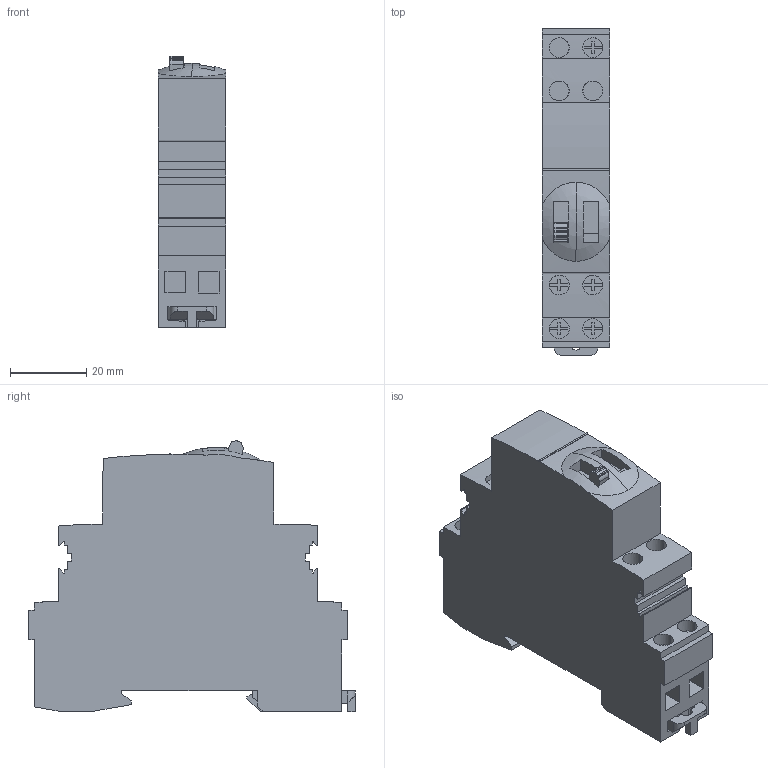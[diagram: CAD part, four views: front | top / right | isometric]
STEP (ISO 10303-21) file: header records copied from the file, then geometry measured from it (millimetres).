
FILE_DESCRIPTION((''),'2;1');
FILE_NAME('SB100538_S_SW0001','2010-09-17T',('gfernandez-a'),(''),'PRO/ENGINEER BY PARAMETRIC TECHNOLOGY CORPORATION, 2006170','PRO/ENGINEER BY PARAMETRIC TECHNOLOGY CORPORATION, 2006170','');
FILE_SCHEMA(('CONFIG_CONTROL_DESIGN'));
Length unit declared in the file: millimetre
Products named in the file (1): SB100538_S_SW0001
Bounding box: 17.8 x 85.81 x 71.34 mm (x, y, z)
Volume: 74522.4 mm3; surface area: 17305.5 mm2
Topology: 1 solids, 1 shells, 289 faces, 836 edges, 557 vertices
Faces by surface type: plane 242, cylinder 37, extrusion 8, sphere 2
Entity records: 10380 total; most frequent: CARTESIAN_POINT 2701, ORIENTED_EDGE 1668, DIRECTION 1465, EDGE_CURVE 834, VECTOR 701, LINE 693, VERTEX_POINT 557, AXIS2_PLACEMENT_3D 382
